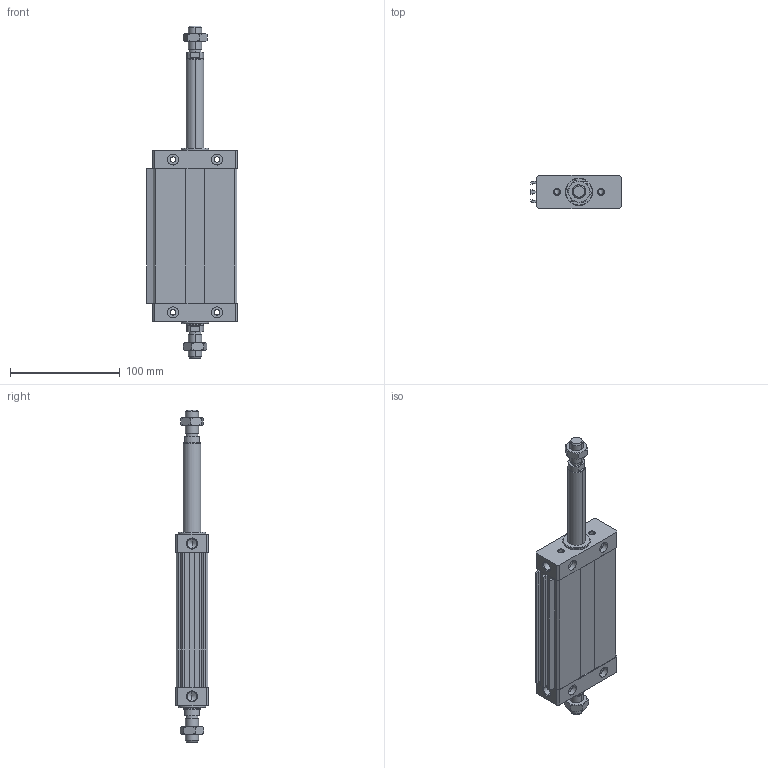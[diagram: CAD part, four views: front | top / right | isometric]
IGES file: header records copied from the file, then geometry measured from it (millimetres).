
Global section: file name: No Iges File Name specified; native system: Autodesk Inventor 2011; preprocessor: AutoDesk Inventor Iges Exporter R2011; author: airolcr1; date: 20101213.153138; units: millimetre
Bounding box: 82.5 x 30 x 302 mm (x, y, z)
Volume: 285807.2 mm3; surface area: 97310.4 mm2
Topology: 6 solids, 6 shells, 276 faces, 652 edges, 396 vertices
Faces by surface type: bspline 110, plane 98, cone 36, cylinder 18, revolution 14
